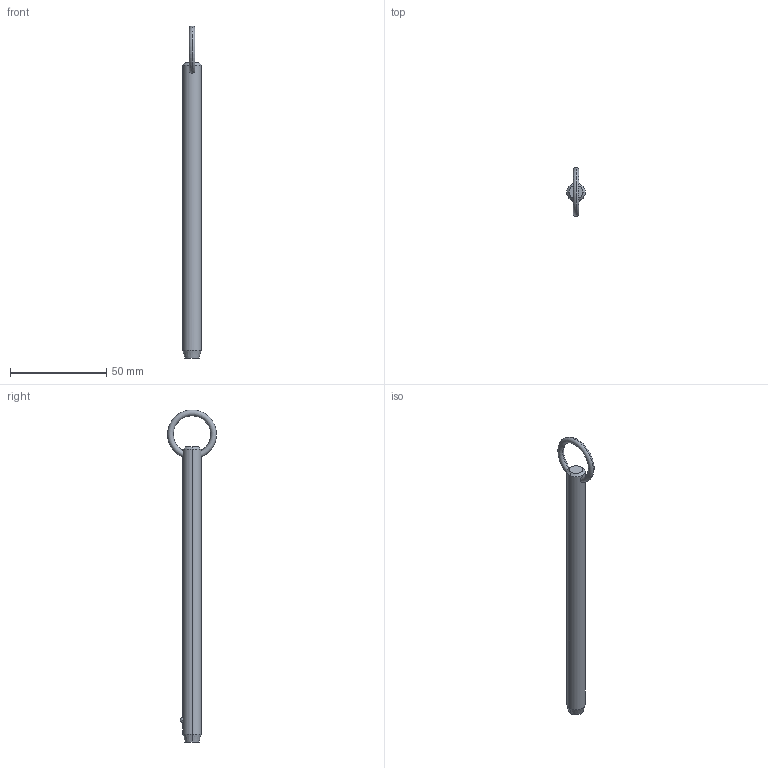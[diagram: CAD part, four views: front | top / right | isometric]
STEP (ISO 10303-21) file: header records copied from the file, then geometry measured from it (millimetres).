
FILE_DESCRIPTION (( 'STEP AP203' ), '1' );
FILE_NAME ('P1250.037-530.step', '2019-07-29T20:13:14', ( '' ), ( '' ), 'SwSTEP 2.0', 'SolidWorks 2017', '' );
FILE_SCHEMA (( 'CONFIG_CONTROL_DESIGN' ));
Length unit declared in the file: millimetre
Products named in the file (1): P1250.037-530
Bounding box: 9.52 x 25.39 x 172.7 mm (x, y, z)
Volume: 11288.1 mm3; surface area: 5237.6 mm2
Topology: 1 solids, 1 shells, 12 faces, 28 edges, 17 vertices
Faces by surface type: cone 4, torus 2, sphere 2, cylinder 2, plane 2
Entity records: 523 total; most frequent: CARTESIAN_POINT 190, DIRECTION 56, ORIENTED_EDGE 48, AXIS2_PLACEMENT_3D 25, EDGE_CURVE 24, EDGE_LOOP 15, VERTEX_POINT 15, FACE_OUTER_BOUND 12
